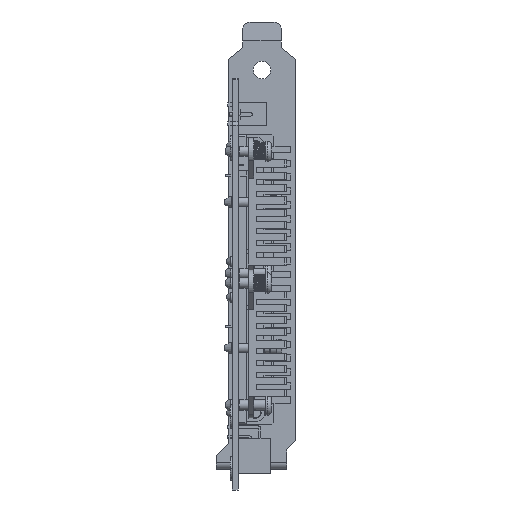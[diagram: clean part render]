
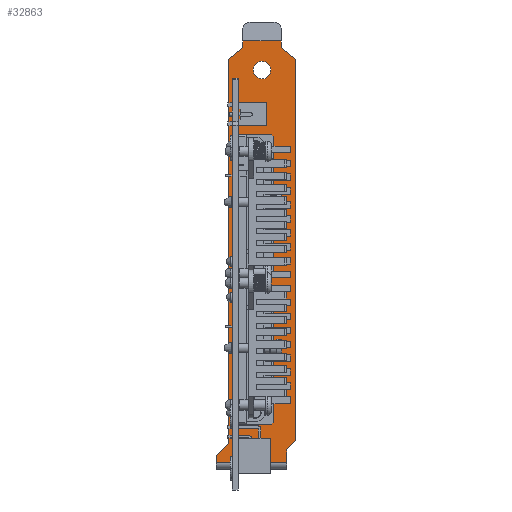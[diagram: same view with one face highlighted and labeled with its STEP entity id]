
A CAD part, front view. The second image highlights one B-rep face of the part: STEP entity #32863.
In plain terms, the highlighted planar face has unit normal (0, -1, 0).
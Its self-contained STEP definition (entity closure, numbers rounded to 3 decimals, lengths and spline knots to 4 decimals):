
#352=DIRECTION('',(1.,0.,0.));
#353=VECTOR('',#352,0.412);
#354=CARTESIAN_POINT('',(0.108,0.325,0.7642));
#355=LINE('',#354,#353);
#356=DIRECTION('',(0.,0.,-1.));
#357=VECTOR('',#356,0.074);
#358=CARTESIAN_POINT('',(0.52,0.325,0.7642));
#359=LINE('',#358,#357);
#360=DIRECTION('',(-0.788,0.,0.616));
#361=VECTOR('',#360,0.1967);
#362=CARTESIAN_POINT('',(0.675,0.325,0.5691));
#363=LINE('',#362,#361);
#364=DIRECTION('',(0.707,0.,0.707));
#365=VECTOR('',#364,0.1414);
#366=CARTESIAN_POINT('',(0.575,0.325,-3.5828));
#367=LINE('',#366,#365);
#368=DIRECTION('',(0.,0.,1.));
#369=VECTOR('',#368,0.137);
#370=CARTESIAN_POINT('',(0.575,0.325,-3.7198));
#371=LINE('',#370,#369);
#372=DIRECTION('',(-1.,0.,0.));
#373=VECTOR('',#372,0.75);
#374=CARTESIAN_POINT('',(0.575,0.325,-3.7198));
#375=LINE('',#374,#373);
#376=DIRECTION('',(-0.707,0.,-0.707));
#377=VECTOR('',#376,0.181);
#378=CARTESIAN_POINT('',(-0.047,0.325,-3.5138));
#379=LINE('',#378,#377);
#380=DIRECTION('',(0.,0.,-1.));
#381=VECTOR('',#380,4.0829);
#382=CARTESIAN_POINT('',(-0.047,0.325,0.5691));
#383=LINE('',#382,#381);
#384=DIRECTION('',(-0.788,0.,-0.616));
#385=VECTOR('',#384,0.1967);
#386=CARTESIAN_POINT('',(0.108,0.325,0.6902));
#387=LINE('',#386,#385);
#388=DIRECTION('',(0.,0.,-1.));
#389=VECTOR('',#388,0.074);
#390=CARTESIAN_POINT('',(0.108,0.325,0.7642));
#391=LINE('',#390,#389);
#392=CARTESIAN_POINT('',(0.314,0.325,0.4532));
#393=DIRECTION('',(0.,1.,0.));
#394=DIRECTION('',(0.,0.,1.));
#395=AXIS2_PLACEMENT_3D('',#392,#393,#394);
#397=CARTESIAN_POINT('',(0.314,0.325,0.4532));
#398=DIRECTION('',(0.,1.,0.));
#399=DIRECTION('',(0.,0.,-1.));
#400=AXIS2_PLACEMENT_3D('',#397,#398,#399);
#402=CARTESIAN_POINT('',(0.239,0.325,-0.0148));
#403=DIRECTION('',(0.,1.,0.));
#404=DIRECTION('',(0.,0.,-1.));
#405=AXIS2_PLACEMENT_3D('',#402,#403,#404);
#407=CARTESIAN_POINT('',(0.239,0.325,-0.0148));
#408=DIRECTION('',(0.,1.,0.));
#409=DIRECTION('',(0.,0.,1.));
#410=AXIS2_PLACEMENT_3D('',#407,#408,#409);
#458=DIRECTION('',(0.,0.,1.));
#459=VECTOR('',#458,0.078);
#460=CARTESIAN_POINT('',(-0.175,0.325,-3.7198));
#461=LINE('',#460,#459);
#812=DIRECTION('',(0.,0.,1.));
#813=VECTOR('',#812,4.0519);
#814=CARTESIAN_POINT('',(0.675,0.325,-3.4828));
#815=LINE('',#814,#813);
#932=DIRECTION('',(-1.,0.,0.));
#933=VECTOR('',#932,0.3524);
#934=CARTESIAN_POINT('',(0.4144,0.325,-3.3079));
#935=LINE('',#934,#933);
#956=DIRECTION('',(0.,0.,1.));
#957=VECTOR('',#956,1.4669);
#958=CARTESIAN_POINT('',(0.062,0.325,-3.3079));
#959=LINE('',#958,#957);
#960=DIRECTION('',(1.,0.,0.));
#961=VECTOR('',#960,0.3524);
#962=CARTESIAN_POINT('',(0.062,0.325,-1.841));
#963=LINE('',#962,#961);
#976=DIRECTION('',(-0.707,0.,0.707));
#977=VECTOR('',#976,0.0278);
#978=CARTESIAN_POINT('',(0.434,0.325,-1.8607));
#979=LINE('',#978,#977);
#980=DIRECTION('',(0.,0.,-1.));
#981=VECTOR('',#980,1.4276);
#982=CARTESIAN_POINT('',(0.434,0.325,-1.8607));
#983=LINE('',#982,#981);
#1004=DIRECTION('',(-0.707,0.,-0.707));
#1005=VECTOR('',#1004,0.0278);
#1006=CARTESIAN_POINT('',(0.434,0.325,-3.2882));
#1007=LINE('',#1006,#1005);
#5640=DIRECTION('',(0.,0.,1.));
#5641=VECTOR('',#5640,1.4669);
#5642=CARTESIAN_POINT('',(0.062,0.325,-1.701));
#5643=LINE('',#5642,#5641);
#5644=DIRECTION('',(1.,0.,0.));
#5645=VECTOR('',#5644,0.3524);
#5646=CARTESIAN_POINT('',(0.062,0.325,-0.2341));
#5647=LINE('',#5646,#5645);
#5660=DIRECTION('',(-0.707,0.,0.707));
#5661=VECTOR('',#5660,0.0278);
#5662=CARTESIAN_POINT('',(0.434,0.325,-0.2538));
#5663=LINE('',#5662,#5661);
#5664=DIRECTION('',(0.,0.,-1.));
#5665=VECTOR('',#5664,1.4276);
#5666=CARTESIAN_POINT('',(0.434,0.325,-0.2538));
#5667=LINE('',#5666,#5665);
#5688=DIRECTION('',(-0.707,0.,-0.707));
#5689=VECTOR('',#5688,0.0278);
#5690=CARTESIAN_POINT('',(0.434,0.325,-1.6813));
#5691=LINE('',#5690,#5689);
#5692=DIRECTION('',(-1.,0.,0.));
#5693=VECTOR('',#5692,0.3524);
#5694=CARTESIAN_POINT('',(0.4144,0.325,-1.701));
#5695=LINE('',#5694,#5693);
#31832=CARTESIAN_POINT('',(-0.175,0.325,-3.7198));
#31834=VERTEX_POINT('',#31832);
#31835=CARTESIAN_POINT('',(0.575,0.325,-3.7198));
#31837=VERTEX_POINT('',#31835);
#31839=CARTESIAN_POINT('',(0.575,0.325,-3.5828));
#31840=VERTEX_POINT('',#31839);
#31841=CARTESIAN_POINT('',(0.675,0.325,-3.4828));
#31842=VERTEX_POINT('',#31841);
#31843=CARTESIAN_POINT('',(0.108,0.325,0.6902));
#31844=CARTESIAN_POINT('',(-0.047,0.325,0.5691));
#31845=VERTEX_POINT('',#31843);
#31846=VERTEX_POINT('',#31844);
#31847=CARTESIAN_POINT('',(-0.047,0.325,-3.5138));
#31848=VERTEX_POINT('',#31847);
#31849=CARTESIAN_POINT('',(-0.175,0.325,-3.6418));
#31850=VERTEX_POINT('',#31849);
#31851=CARTESIAN_POINT('',(0.675,0.325,0.5691));
#31852=CARTESIAN_POINT('',(0.52,0.325,0.6902));
#31853=VERTEX_POINT('',#31851);
#31854=VERTEX_POINT('',#31852);
#31963=CARTESIAN_POINT('',(0.314,0.325,0.5467));
#31964=CARTESIAN_POINT('',(0.314,0.325,0.3597));
#31965=VERTEX_POINT('',#31963);
#31966=VERTEX_POINT('',#31964);
#31967=CARTESIAN_POINT('',(0.108,0.325,0.7642));
#31968=VERTEX_POINT('',#31967);
#31969=CARTESIAN_POINT('',(0.52,0.325,0.7642));
#31970=VERTEX_POINT('',#31969);
#32019=CARTESIAN_POINT('',(0.239,0.325,-0.1123));
#32020=CARTESIAN_POINT('',(0.239,0.325,0.0827));
#32021=VERTEX_POINT('',#32019);
#32022=VERTEX_POINT('',#32020);
#32047=CARTESIAN_POINT('',(0.4144,0.325,-3.3079));
#32048=CARTESIAN_POINT('',(0.062,0.325,-3.3079));
#32049=VERTEX_POINT('',#32047);
#32050=VERTEX_POINT('',#32048);
#32051=CARTESIAN_POINT('',(0.062,0.325,-1.841));
#32052=VERTEX_POINT('',#32051);
#32053=CARTESIAN_POINT('',(0.4144,0.325,-1.841));
#32054=VERTEX_POINT('',#32053);
#32055=CARTESIAN_POINT('',(0.434,0.325,-1.8607));
#32056=CARTESIAN_POINT('',(0.434,0.325,-3.2882));
#32057=VERTEX_POINT('',#32055);
#32058=VERTEX_POINT('',#32056);
#32083=CARTESIAN_POINT('',(0.4144,0.325,-1.701));
#32084=CARTESIAN_POINT('',(0.062,0.325,-1.701));
#32085=VERTEX_POINT('',#32083);
#32086=VERTEX_POINT('',#32084);
#32087=CARTESIAN_POINT('',(0.062,0.325,-0.2341));
#32088=VERTEX_POINT('',#32087);
#32089=CARTESIAN_POINT('',(0.4144,0.325,-0.2341));
#32090=VERTEX_POINT('',#32089);
#32091=CARTESIAN_POINT('',(0.434,0.325,-0.2538));
#32092=CARTESIAN_POINT('',(0.434,0.325,-1.6813));
#32093=VERTEX_POINT('',#32091);
#32094=VERTEX_POINT('',#32092);
#32794=CARTESIAN_POINT('',(0.675,0.325,-3.7198));
#32795=DIRECTION('',(0.,1.,0.));
#32796=DIRECTION('',(0.,0.,1.));
#32797=AXIS2_PLACEMENT_3D('',#32794,#32795,#32796);
#32798=PLANE('',#32797);
#32800=ORIENTED_EDGE('',*,*,#32799,.T.);
#32801=ORIENTED_EDGE('',*,*,#32775,.T.);
#32802=ORIENTED_EDGE('',*,*,#32785,.F.);
#32804=ORIENTED_EDGE('',*,*,#32803,.F.);
#32806=ORIENTED_EDGE('',*,*,#32805,.F.);
#32808=ORIENTED_EDGE('',*,*,#32807,.F.);
#32810=ORIENTED_EDGE('',*,*,#32809,.T.);
#32812=ORIENTED_EDGE('',*,*,#32811,.T.);
#32814=ORIENTED_EDGE('',*,*,#32813,.F.);
#32816=ORIENTED_EDGE('',*,*,#32815,.F.);
#32818=ORIENTED_EDGE('',*,*,#32817,.F.);
#32820=ORIENTED_EDGE('',*,*,#32819,.F.);
#32821=EDGE_LOOP('',(#32800,#32801,#32802,#32804,#32806,#32808,#32810,#32812,
#32814,#32816,#32818,#32820));
#32822=FACE_OUTER_BOUND('',#32821,.F.);
#32824=ORIENTED_EDGE('',*,*,#32823,.F.);
#32826=ORIENTED_EDGE('',*,*,#32825,.F.);
#32827=EDGE_LOOP('',(#32824,#32826));
#32828=FACE_BOUND('',#32827,.F.);
#32830=ORIENTED_EDGE('',*,*,#32829,.F.);
#32832=ORIENTED_EDGE('',*,*,#32831,.F.);
#32833=EDGE_LOOP('',(#32830,#32832));
#32834=FACE_BOUND('',#32833,.F.);
#32836=ORIENTED_EDGE('',*,*,#32835,.F.);
#32838=ORIENTED_EDGE('',*,*,#32837,.F.);
#32840=ORIENTED_EDGE('',*,*,#32839,.F.);
#32842=ORIENTED_EDGE('',*,*,#32841,.T.);
#32844=ORIENTED_EDGE('',*,*,#32843,.F.);
#32846=ORIENTED_EDGE('',*,*,#32845,.F.);
#32847=EDGE_LOOP('',(#32836,#32838,#32840,#32842,#32844,#32846));
#32848=FACE_BOUND('',#32847,.F.);
#32850=ORIENTED_EDGE('',*,*,#32849,.F.);
#32852=ORIENTED_EDGE('',*,*,#32851,.F.);
#32854=ORIENTED_EDGE('',*,*,#32853,.F.);
#32856=ORIENTED_EDGE('',*,*,#32855,.T.);
#32858=ORIENTED_EDGE('',*,*,#32857,.F.);
#32860=ORIENTED_EDGE('',*,*,#32859,.F.);
#32861=EDGE_LOOP('',(#32850,#32852,#32854,#32856,#32858,#32860));
#32862=FACE_BOUND('',#32861,.F.);
#32863=ADVANCED_FACE('',(#32822,#32828,#32834,#32848,#32862),#32798,.F.);
#396=CIRCLE('',#395,0.0935);
#401=CIRCLE('',#400,0.0935);
#406=CIRCLE('',#405,0.0975);
#411=CIRCLE('',#410,0.0975);
#32775=EDGE_CURVE('',#31970,#31854,#359,.T.);
#32785=EDGE_CURVE('',#31853,#31854,#363,.T.);
#32799=EDGE_CURVE('',#31968,#31970,#355,.T.);
#32803=EDGE_CURVE('',#31842,#31853,#815,.T.);
#32805=EDGE_CURVE('',#31840,#31842,#367,.T.);
#32807=EDGE_CURVE('',#31837,#31840,#371,.T.);
#32809=EDGE_CURVE('',#31837,#31834,#375,.T.);
#32811=EDGE_CURVE('',#31834,#31850,#461,.T.);
#32813=EDGE_CURVE('',#31848,#31850,#379,.T.);
#32815=EDGE_CURVE('',#31846,#31848,#383,.T.);
#32817=EDGE_CURVE('',#31845,#31846,#387,.T.);
#32819=EDGE_CURVE('',#31968,#31845,#391,.T.);
#32823=EDGE_CURVE('',#31965,#31966,#396,.T.);
#32825=EDGE_CURVE('',#31966,#31965,#401,.T.);
#32829=EDGE_CURVE('',#32021,#32022,#406,.T.);
#32831=EDGE_CURVE('',#32022,#32021,#411,.T.);
#32835=EDGE_CURVE('',#32049,#32050,#935,.T.);
#32837=EDGE_CURVE('',#32058,#32049,#1007,.T.);
#32839=EDGE_CURVE('',#32057,#32058,#983,.T.);
#32841=EDGE_CURVE('',#32057,#32054,#979,.T.);
#32843=EDGE_CURVE('',#32052,#32054,#963,.T.);
#32845=EDGE_CURVE('',#32050,#32052,#959,.T.);
#32849=EDGE_CURVE('',#32085,#32086,#5695,.T.);
#32851=EDGE_CURVE('',#32094,#32085,#5691,.T.);
#32853=EDGE_CURVE('',#32093,#32094,#5667,.T.);
#32855=EDGE_CURVE('',#32093,#32090,#5663,.T.);
#32857=EDGE_CURVE('',#32088,#32090,#5647,.T.);
#32859=EDGE_CURVE('',#32086,#32088,#5643,.T.);
